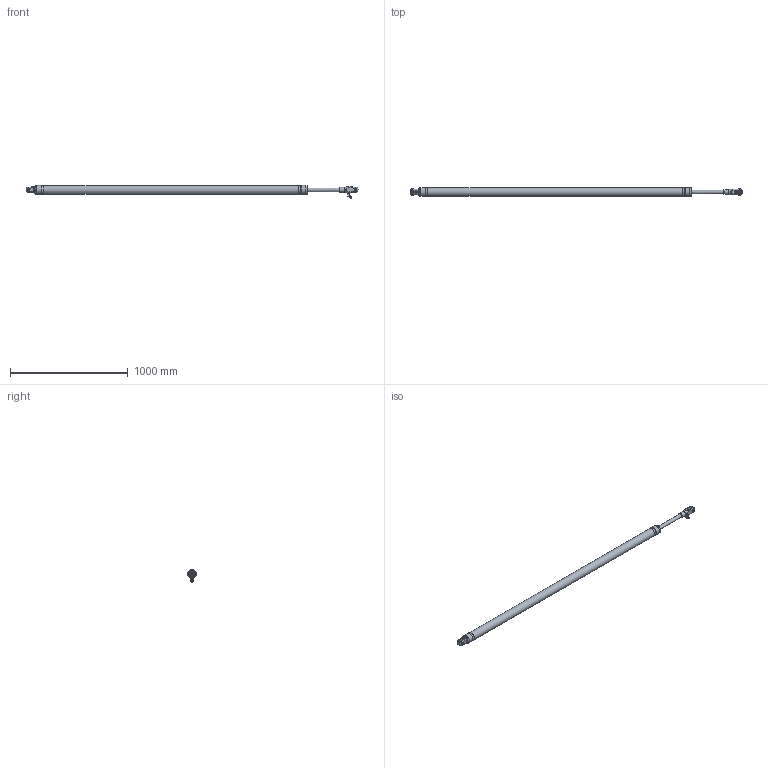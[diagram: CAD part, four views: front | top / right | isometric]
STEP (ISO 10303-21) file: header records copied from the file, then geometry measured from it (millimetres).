
FILE_DESCRIPTION(/* description */ (''),/* implementation_level */ '2;1');
FILE_NAME(/* name */ 'Q:\AA BRAND HYDRAULICS\HYDRAULICS FAMILY DIRECTORY\HYDRAULICS\CYLINDERS\VANGS\ALUMINIUM SINGLE ACTING - STAINLESS ON REQUEST (-0010 To -0150)\VSA-0022-S275-NP-71-L2500\VSA-0022-S275-NP-71-L2500 (Open).stp',/* time_stamp */ '2018-04-26T10:07:12+01:00',/* author */ ('Lorena'),/* organization */ (''),/* preprocessor_version */ 'ST-DEVELOPER v17',/* originating_system */ 'Autodesk Inventor 2018',/* authorisation */ '');
FILE_SCHEMA (('AUTOMOTIVE_DESIGN { 1 0 10303 214 3 1 1 }'));
Products named in the file (1): VSA-0022-S275-NP-71-L2500 (Open)
Bounding box: 2820.73 x 74.2 x 111.24 mm (x, y, z)
Volume: 9807387.1 mm3; surface area: 606629.9 mm2
Topology: 2 solids, 3 shells, 1623 faces, 4353 edges, 2885 vertices
Faces by surface type: plane 910, bspline 573, cylinder 78, cone 53, torus 5, sphere 4
Full cylindrical faces by diameter (mm): 5 x3, 5.1 x1, 5.9 x1, 6 x2, 6.6 x2, 11.157 x1, 11.5 x1, 11.8 x1, 12 x3, 12.157 x1, 12.5 x1, 12.77 x1, 13 x1, 13.157 x2, 14.5 x2, 15.88 x6, 18.3 x3, 19.85 x2, 22 x1, 30 x2, 34 x1, 42 x1, 71.2 x1, 72.2 x1, 74.2 x3
Entity records: 58842 total; most frequent: CARTESIAN_POINT 20315, ORIENTED_EDGE 8692, DIRECTION 5577, EDGE_CURVE 4346, VERTEX_POINT 2886, LINE 2787, VECTOR 2787, EDGE_LOOP 1791
